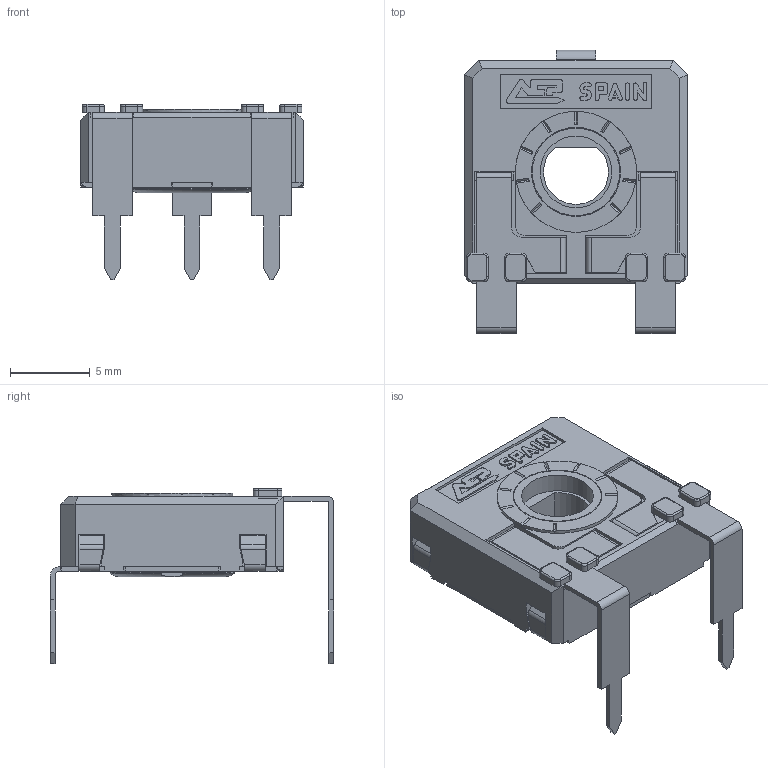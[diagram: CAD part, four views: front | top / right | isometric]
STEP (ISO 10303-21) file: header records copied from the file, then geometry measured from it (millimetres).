
FILE_DESCRIPTION(/* description */ (''),/* implementation_level */ '2;1');
FILE_NAME(/* name */ 'C:\Users\CEM\Desktop\ENVIAR\TRANSICION 3D CATALOGOS\RS14DV17,5.stp',/* time_stamp */ '2025-12-10T10:19:00+01:00',/* author */ ('CEM'),/* organization */ (''),/* preprocessor_version */ 'ST-DEVELOPER v16.13',/* originating_system */ 'Autodesk Inventor 2018',/* authorisation */ '');
FILE_SCHEMA (('AUTOMOTIVE_DESIGN { 1 0 10303 214 3 1 1 }'));
Length unit declared in the file: millimetre
Products named in the file (1): CARCASA CA14 PGA
Bounding box: 14 x 17.8 x 11 mm (x, y, z)
Volume: 527.2 mm3; surface area: 1498.8 mm2
Topology: 1 solids, 1 shells, 665 faces, 1870 edges, 1202 vertices
Faces by surface type: plane 492, cylinder 136, torus 23, bspline 8, cone 6
Full cylindrical faces by diameter (mm): 4.5 x1, 5.5 x1, 5.6 x1, 5.752 x1, 6.8 x1, 7.6 x1
Entity records: 21513 total; most frequent: CARTESIAN_POINT 3932, ORIENTED_EDGE 3712, DIRECTION 3502, EDGE_CURVE 1856, LINE 1470, VECTOR 1470, VERTEX_POINT 1198, AXIS2_PLACEMENT_3D 1016
